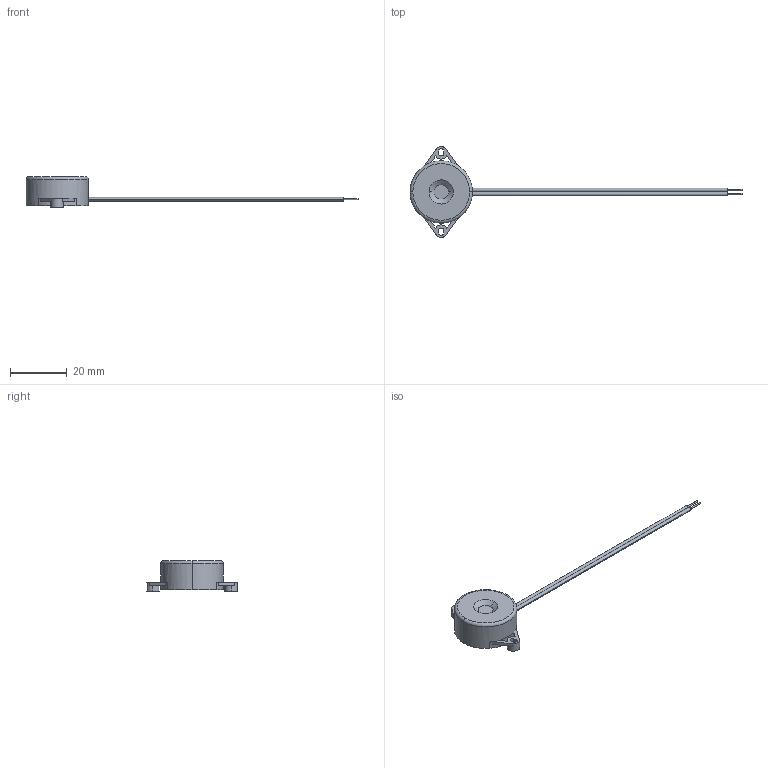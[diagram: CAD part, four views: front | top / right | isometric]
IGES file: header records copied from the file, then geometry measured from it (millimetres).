
Global section: file name: No Iges File Name specified; native system: AutoDesk Inventor R12.0; preprocessor: AutoDesk Inventor Iges Exporter R12.0; date: 20090219.144442; units: millimetre
Bounding box: 117 x 32 x 10.8 mm (x, y, z)
Volume: 1119.5 mm3; surface area: 4373.2 mm2
Topology: 2 solids, 2 shells, 95 faces, 250 edges, 160 vertices
Faces by surface type: plane 47, cylinder 27, revolution 9, torus 6, bspline 6
